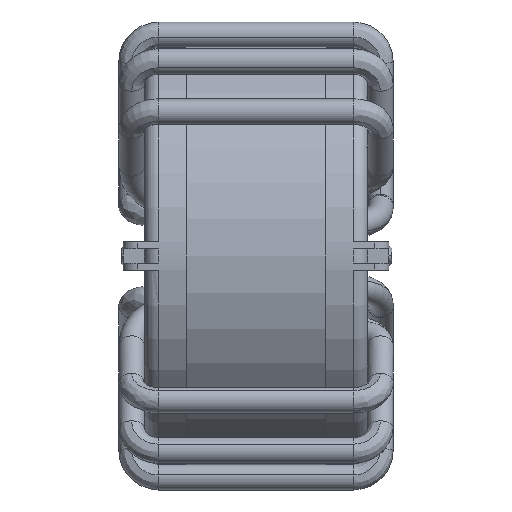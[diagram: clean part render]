
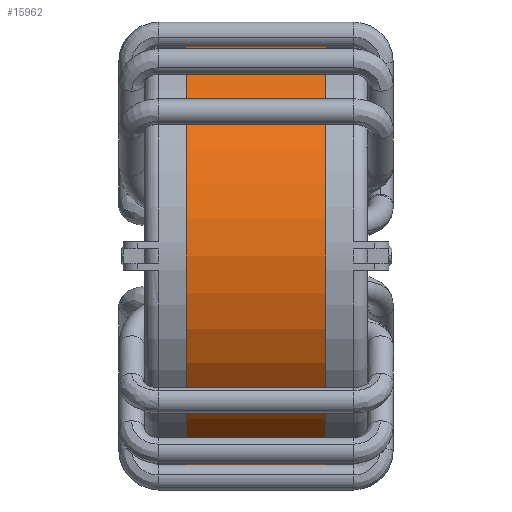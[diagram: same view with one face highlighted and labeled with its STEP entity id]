
A CAD part, left-side view. The second image highlights one B-rep face of the part: STEP entity #15962.
In plain terms, the highlighted cylindrical face has radius 15.245 mm (diameter 30.49 mm), a partial arc.
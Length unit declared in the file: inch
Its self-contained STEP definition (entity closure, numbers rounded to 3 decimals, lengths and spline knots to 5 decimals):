
#643 = AXIS2_PLACEMENT_3D ( 'NONE', #7031, #13406, #9701 ) ;
#825 = DIRECTION ( 'NONE',  ( 0., -1., 0. ) ) ;
#2125 = ORIENTED_EDGE ( 'NONE', *, *, #13828, .T. ) ;
#2288 = CYLINDRICAL_SURFACE ( 'NONE', #643, 0.6002 ) ;
#2300 = CARTESIAN_POINT ( 'NONE',  ( 0., -0.19685, -0.6002 ) ) ;
#2728 = DIRECTION ( 'NONE',  ( 0., 0., 1. ) ) ;
#2776 = AXIS2_PLACEMENT_3D ( 'NONE', #7068, #18823, #19843 ) ;
#3427 = CARTESIAN_POINT ( 'NONE',  ( 0., 0.19685, -0.6002 ) ) ;
#3429 = VERTEX_POINT ( 'NONE', #3632 ) ;
#3632 = CARTESIAN_POINT ( 'NONE',  ( 0., 0.19685, 0.6002 ) ) ;
#3857 = CARTESIAN_POINT ( 'NONE',  ( 0., -0.19685, 0.6002 ) ) ;
#4057 = CARTESIAN_POINT ( 'NONE',  ( 0., 0.19685, 0. ) ) ;
#4174 = LINE ( 'NONE', #14939, #6755 ) ;
#4759 = DIRECTION ( 'NONE',  ( 0., -1., 0. ) ) ;
#5135 = CIRCLE ( 'NONE', #15164, 0.6002 ) ;
#5519 = EDGE_CURVE ( 'NONE', #11526, #16034, #4174, .T. ) ;
#5612 = VERTEX_POINT ( 'NONE', #3857 ) ;
#6037 = EDGE_CURVE ( 'NONE', #11526, #3429, #5135, .T. ) ;
#6755 = VECTOR ( 'NONE', #825, 39.37008 ) ;
#7031 = CARTESIAN_POINT ( 'NONE',  ( 0., 0.19685, 0. ) ) ;
#7068 = CARTESIAN_POINT ( 'NONE',  ( 0., -0.19685, 0. ) ) ;
#7810 = LINE ( 'NONE', #20287, #17910 ) ;
#9701 = DIRECTION ( 'NONE',  ( 0., 0., -1. ) ) ;
#11526 = VERTEX_POINT ( 'NONE', #3427 ) ;
#11790 = DIRECTION ( 'NONE',  ( 0., 1., 0. ) ) ;
#13406 = DIRECTION ( 'NONE',  ( 0., -1., 0. ) ) ;
#13828 = EDGE_CURVE ( 'NONE', #16034, #5612, #20830, .T. ) ;
#14939 = CARTESIAN_POINT ( 'NONE',  ( 0., 0.19685, -0.6002 ) ) ;
#15164 = AXIS2_PLACEMENT_3D ( 'NONE', #4057, #11790, #2728 ) ;
#15560 = ORIENTED_EDGE ( 'NONE', *, *, #6037, .F. ) ;
#15730 = EDGE_CURVE ( 'NONE', #3429, #5612, #7810, .T. ) ;
#15962 = ADVANCED_FACE ( 'NONE', ( #20166 ), #2288, .T. ) ;
#16034 = VERTEX_POINT ( 'NONE', #2300 ) ;
#16732 = EDGE_LOOP ( 'NONE', ( #17666, #15560, #17913, #2125 ) ) ;
#17666 = ORIENTED_EDGE ( 'NONE', *, *, #15730, .F. ) ;
#17910 = VECTOR ( 'NONE', #4759, 39.37008 ) ;
#17913 = ORIENTED_EDGE ( 'NONE', *, *, #5519, .T. ) ;
#18823 = DIRECTION ( 'NONE',  ( 0., 1., 0. ) ) ;
#19843 = DIRECTION ( 'NONE',  ( 0., 0., 1. ) ) ;
#20166 = FACE_OUTER_BOUND ( 'NONE', #16732, .T. ) ;
#20287 = CARTESIAN_POINT ( 'NONE',  ( 0., 0.19685, 0.6002 ) ) ;
#20830 = CIRCLE ( 'NONE', #2776, 0.6002 ) ;
